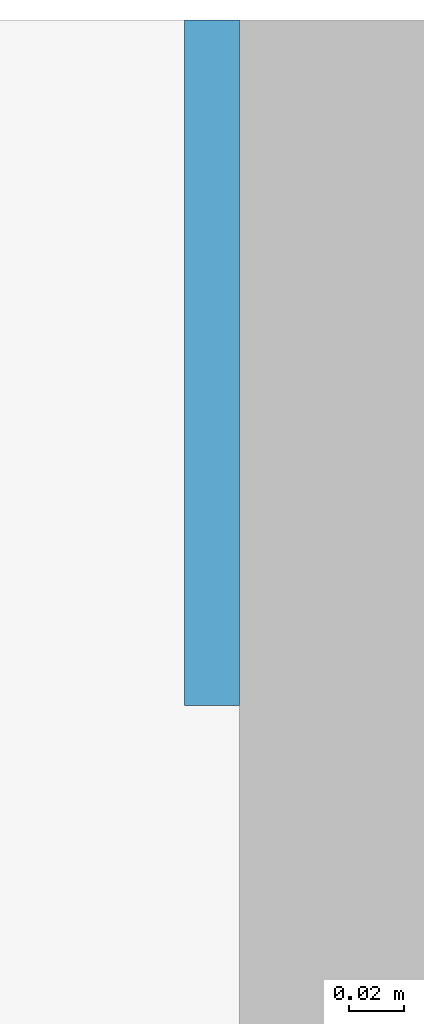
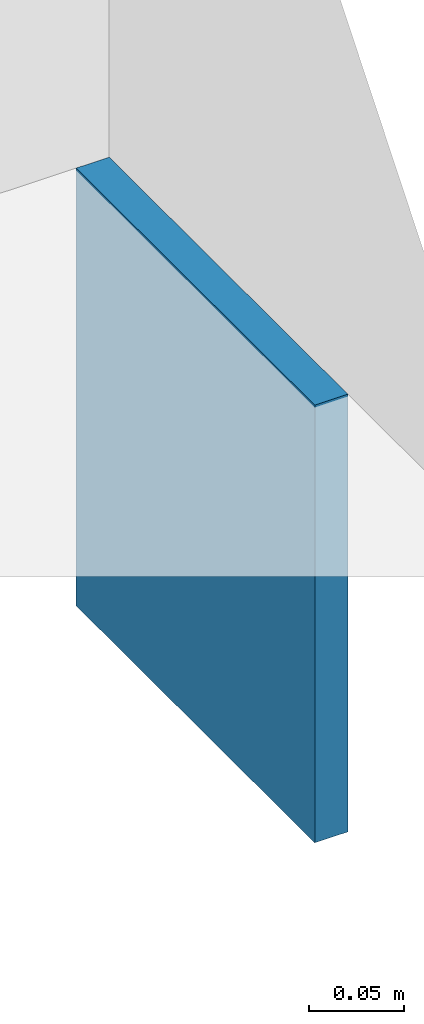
# One storey, part 10 of 12: 1 wall.
"""IFC2X3 building model written with IfcOpenShell, lengths in millimetres."""

from ifc_helpers import new_model, entity, si_unit, converted_unit, derived_unit, direction, frame, frame_2d, origin, place, context, subcontext, project, spatial, rectangle, extrude, material, layer, layer_set, layer_usage, type_object, element, save


model = new_model("IFC2X3")

# Units and contexts
model_context = context("Model", 3, precision=0.01, world=origin(), true_north=direction((6.12303176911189e-17, 1.0)))
body_context = subcontext(model_context, "Body", "Model", "MODEL_VIEW")
ifc_project = project(units=[si_unit("LENGTHUNIT", "METRE", prefix="MILLI"), si_unit("AREAUNIT", "SQUARE_METRE"), si_unit("VOLUMEUNIT", "CUBIC_METRE"), converted_unit("PLANEANGLEUNIT", "DEGREE", entity("IfcRatioMeasure", 0.0174532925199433), si_unit("PLANEANGLEUNIT", "RADIAN"), dimensions=[0, 0, 0, 0, 0, 0, 0]), si_unit("MASSUNIT", "GRAM", prefix="KILO"), derived_unit("MASSDENSITYUNIT", [(si_unit("MASSUNIT", "GRAM", prefix="KILO"), 1), (si_unit("LENGTHUNIT", "METRE"), -3)]), si_unit("TIMEUNIT", "SECOND"), si_unit("FREQUENCYUNIT", "HERTZ"), si_unit("THERMODYNAMICTEMPERATUREUNIT", "DEGREE_CELSIUS"), derived_unit("THERMALTRANSMITTANCEUNIT", [(si_unit("MASSUNIT", "GRAM", prefix="KILO"), 1), (si_unit("THERMODYNAMICTEMPERATUREUNIT", "KELVIN"), -1), (si_unit("TIMEUNIT", "SECOND"), -3)]), derived_unit("VOLUMETRICFLOWRATEUNIT", [(si_unit("LENGTHUNIT", "METRE"), 3), (si_unit("TIMEUNIT", "SECOND"), -1)]), si_unit("ELECTRICCURRENTUNIT", "AMPERE"), si_unit("ELECTRICVOLTAGEUNIT", "VOLT"), si_unit("POWERUNIT", "WATT"), si_unit("FORCEUNIT", "NEWTON", prefix="KILO"), si_unit("ILLUMINANCEUNIT", "LUX"), si_unit("LUMINOUSFLUXUNIT", "LUMEN"), si_unit("LUMINOUSINTENSITYUNIT", "CANDELA"), derived_unit("USERDEFINED", [(si_unit("MASSUNIT", "GRAM", prefix="KILO"), -1), (si_unit("LENGTHUNIT", "METRE"), -2), (si_unit("TIMEUNIT", "SECOND"), 3), (si_unit("LUMINOUSFLUXUNIT", "LUMEN"), 1)]), derived_unit("LINEARVELOCITYUNIT", [(si_unit("LENGTHUNIT", "METRE"), 1), (si_unit("TIMEUNIT", "SECOND"), -1)]), si_unit("PRESSUREUNIT", "PASCAL"), derived_unit("USERDEFINED", [(si_unit("LENGTHUNIT", "METRE"), -2), (si_unit("MASSUNIT", "GRAM", prefix="KILO"), 1), (si_unit("TIMEUNIT", "SECOND"), -2)])], contexts=[model_context])

# Site, building, storey
site_placement = place(None, origin())
site = spatial("IfcSite", under=ifc_project, at=site_placement, Name="Default", CompositionType="ELEMENT")
building_placement = place(site_placement, origin())
building = spatial("IfcBuilding", under=site, at=building_placement, Name="niet gebruiken", CompositionType="ELEMENT")
storey_placement = place(building_placement, frame((0.0, 0.0, 18540.0)))
storey = spatial("IfcBuildingStorey", under=building, at=storey_placement, Name="06 zesde verdieping", CompositionType="ELEMENT", Elevation=18540.0)

# Wall
ifc_material = material(Name="NLRS_f2_beton ihwg")
ifc_layer = layer(ifc_material, 250.0)
ifc_layer_set = layer_set([ifc_layer], Name="Basic Wall:NLRS_21.21_WA_beton ihwg d=250_gen")
ifc_layer_usage = layer_usage(ifc_layer_set, "AXIS2", "NEGATIVE", 125.0)
wall_type = type_object("IfcWallType", Name="Basic Wall:NLRS_21.21_WA_beton ihwg d=250_gen", PredefinedType="STANDARD", material=ifc_layer_set)
wall_placement = place(storey_placement, frame((56370.0, 53131.0, -620.0)))
element("IfcWallStandardCase", 1, at=wall_placement, inside=storey, type_object=wall_type, material=ifc_layer_usage, Name="Basic Wall:NLRS_21.21_WA_beton ihwg d=250_gen", ObjectType="Basic Wall:NLRS_21.21_WA_beton ihwg d=250_gen", context=body_context, shape_type="SweptSolid", body=[
    extrude(rectangle(XDim=19.9999999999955, YDim=249.999999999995, at=frame_2d((9.99999999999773, 0.0), x_axis=(-1.0, 0.0))), origin(), (0.0, 0.0, 1.0), 280.000000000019),
])

save(model, "model.ifc")
